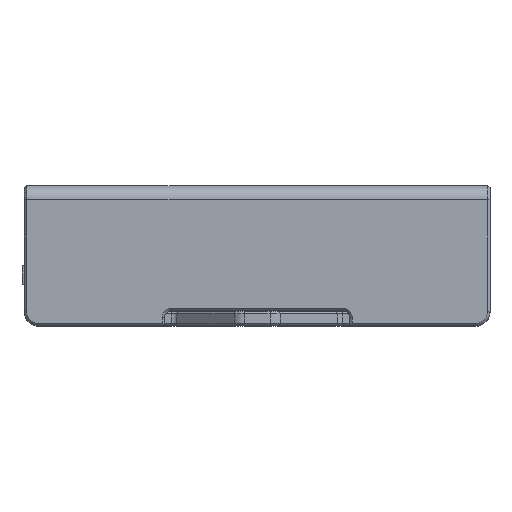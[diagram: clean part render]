
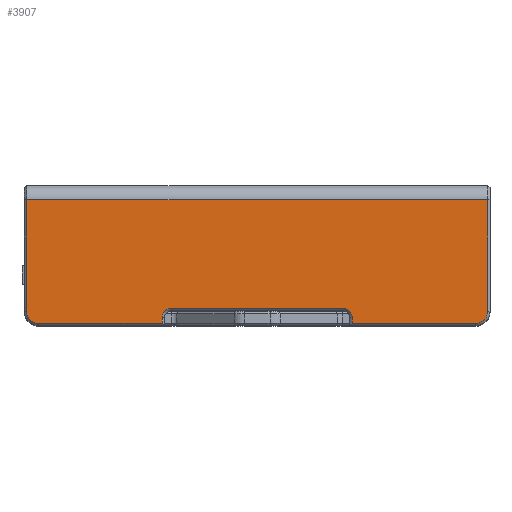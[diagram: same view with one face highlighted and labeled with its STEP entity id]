
A CAD part, top view. The second image highlights one B-rep face of the part: STEP entity #3907.
In plain terms, the highlighted planar face has unit normal (0, 0, 1) as drawn and (-1, 0, 0) by its records, which use the part's own axes.
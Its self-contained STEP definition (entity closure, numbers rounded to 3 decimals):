
#87 = CARTESIAN_POINT ( 'NONE',  ( -3.3, -5.3, -67.507 ) ) ;
#124 = CARTESIAN_POINT ( 'NONE',  ( -3.3, -7., -0.5 ) ) ;
#281 = ORIENTED_EDGE ( 'NONE', *, *, #10411, .T. ) ;
#757 = VERTEX_POINT ( 'NONE', #3693 ) ;
#1070 = AXIS2_PLACEMENT_3D ( 'NONE', #5021, #12186, #6031 ) ;
#1116 = DIRECTION ( 'NONE',  ( 0., 1., 0. ) ) ;
#1153 = DIRECTION ( 'NONE',  ( 0., 1., 0. ) ) ;
#1250 = EDGE_CURVE ( 'NONE', #2562, #5610, #4694, .T. ) ;
#1328 = VECTOR ( 'NONE', #1153, 1000. ) ;
#1412 = VERTEX_POINT ( 'NONE', #8043 ) ;
#1463 = VECTOR ( 'NONE', #11331, 1000. ) ;
#1649 = CARTESIAN_POINT ( 'NONE',  ( -3.3, -6.5, -29.233 ) ) ;
#1870 = CARTESIAN_POINT ( 'NONE',  ( -3.3, -6.5, -3. ) ) ;
#2078 = ORIENTED_EDGE ( 'NONE', *, *, #2645, .T. ) ;
#2094 = VECTOR ( 'NONE', #4319, 1000. ) ;
#2315 = LINE ( 'NONE', #7274, #7457 ) ;
#2562 = VERTEX_POINT ( 'NONE', #3669 ) ;
#2573 = EDGE_CURVE ( 'NONE', #757, #2619, #7452, .T. ) ;
#2619 = VERTEX_POINT ( 'NONE', #10935 ) ;
#2645 = EDGE_CURVE ( 'NONE', #11941, #1412, #3725, .T. ) ;
#2685 = EDGE_LOOP ( 'NONE', ( #8990, #9131, #7726, #11854, #7965, #4655, #2078, #4061, #6864, #3308, #281, #12550 ) ) ;
#2712 = CIRCLE ( 'NONE', #1070, 2.5 ) ;
#2736 = CARTESIAN_POINT ( 'NONE',  ( -3.3, 19.7, -180.775 ) ) ;
#2833 = CARTESIAN_POINT ( 'NONE',  ( -3.3, -5.3, -69.507 ) ) ;
#3302 = CARTESIAN_POINT ( 'NONE',  ( -3.3, -3.3, -180.775 ) ) ;
#3308 = ORIENTED_EDGE ( 'NONE', *, *, #3655, .T. ) ;
#3480 = VERTEX_POINT ( 'NONE', #11021 ) ;
#3534 = VECTOR ( 'NONE', #12220, 1000. ) ;
#3612 = CARTESIAN_POINT ( 'NONE',  ( -3.3, -7., -180.775 ) ) ;
#3617 = CIRCLE ( 'NONE', #9857, 2. ) ;
#3655 = EDGE_CURVE ( 'NONE', #5610, #10238, #12355, .T. ) ;
#3669 = CARTESIAN_POINT ( 'NONE',  ( -3.3, -6.5, -95.74 ) ) ;
#3693 = CARTESIAN_POINT ( 'NONE',  ( -3.3, -3.3, -31.233 ) ) ;
#3725 = LINE ( 'NONE', #11947, #9210 ) ;
#3733 = CARTESIAN_POINT ( 'NONE',  ( -3.3, -4., -95.74 ) ) ;
#3845 = CARTESIAN_POINT ( 'NONE',  ( -3.3, -4., -0.5 ) ) ;
#3907 = ADVANCED_FACE ( 'NONE', ( #6728 ), #11786, .F. ) ;
#4027 = CARTESIAN_POINT ( 'NONE',  ( -3.3, -6.5, -180.775 ) ) ;
#4060 = CARTESIAN_POINT ( 'NONE',  ( -3.3, 19.7, -0.5 ) ) ;
#4061 = ORIENTED_EDGE ( 'NONE', *, *, #12417, .T. ) ;
#4133 = EDGE_CURVE ( 'NONE', #8298, #6690, #6561, .T. ) ;
#4285 = CARTESIAN_POINT ( 'NONE',  ( -3.3, -6.5, -180.775 ) ) ;
#4319 = DIRECTION ( 'NONE',  ( 0., 0., 1. ) ) ;
#4501 = DIRECTION ( 'NONE',  ( 0., 0., 1. ) ) ;
#4655 = ORIENTED_EDGE ( 'NONE', *, *, #5294, .T. ) ;
#4694 = LINE ( 'NONE', #4285, #7124 ) ;
#4758 = DIRECTION ( 'NONE',  ( 0., 1., 0. ) ) ;
#4801 = LINE ( 'NONE', #3302, #2094 ) ;
#4911 = CARTESIAN_POINT ( 'NONE',  ( -3.3, 19.7, -98.24 ) ) ;
#5021 = CARTESIAN_POINT ( 'NONE',  ( -3.3, -4., -3. ) ) ;
#5294 = EDGE_CURVE ( 'NONE', #12628, #11941, #10658, .T. ) ;
#5370 = VERTEX_POINT ( 'NONE', #3845 ) ;
#5562 = EDGE_CURVE ( 'NONE', #2619, #8298, #2315, .T. ) ;
#5610 = VERTEX_POINT ( 'NONE', #10404 ) ;
#5633 = AXIS2_PLACEMENT_3D ( 'NONE', #3612, #12817, #6695 ) ;
#5753 = DIRECTION ( 'NONE',  ( 1., 0., 0. ) ) ;
#5784 = AXIS2_PLACEMENT_3D ( 'NONE', #11901, #5753, #12923 ) ;
#5814 = DIRECTION ( 'NONE',  ( 0., -1., 0. ) ) ;
#6031 = DIRECTION ( 'NONE',  ( 0., 1., 0. ) ) ;
#6055 = EDGE_CURVE ( 'NONE', #5370, #12628, #9522, .T. ) ;
#6561 = LINE ( 'NONE', #4027, #3534 ) ;
#6690 = VERTEX_POINT ( 'NONE', #1870 ) ;
#6695 = DIRECTION ( 'NONE',  ( 0., 1., 0. ) ) ;
#6728 = FACE_OUTER_BOUND ( 'NONE', #2685, .T. ) ;
#6864 = ORIENTED_EDGE ( 'NONE', *, *, #1250, .T. ) ;
#6885 = CIRCLE ( 'NONE', #10987, 2.5 ) ;
#7124 = VECTOR ( 'NONE', #4501, 1000. ) ;
#7274 = CARTESIAN_POINT ( 'NONE',  ( -3.3, -7., -29.233 ) ) ;
#7275 = DIRECTION ( 'NONE',  ( 1., 0., 0. ) ) ;
#7452 = CIRCLE ( 'NONE', #5784, 2. ) ;
#7457 = VECTOR ( 'NONE', #9326, 1000. ) ;
#7575 = EDGE_CURVE ( 'NONE', #3480, #757, #4801, .T. ) ;
#7726 = ORIENTED_EDGE ( 'NONE', *, *, #4133, .T. ) ;
#7965 = ORIENTED_EDGE ( 'NONE', *, *, #6055, .T. ) ;
#8043 = CARTESIAN_POINT ( 'NONE',  ( -3.3, -4., -98.24 ) ) ;
#8298 = VERTEX_POINT ( 'NONE', #1649 ) ;
#8876 = DIRECTION ( 'NONE',  ( 0., 0., -1. ) ) ;
#8899 = EDGE_CURVE ( 'NONE', #6690, #5370, #2712, .T. ) ;
#8990 = ORIENTED_EDGE ( 'NONE', *, *, #2573, .T. ) ;
#9131 = ORIENTED_EDGE ( 'NONE', *, *, #5562, .T. ) ;
#9210 = VECTOR ( 'NONE', #5814, 1000. ) ;
#9326 = DIRECTION ( 'NONE',  ( 0., -1., 0. ) ) ;
#9522 = LINE ( 'NONE', #124, #1328 ) ;
#9857 = AXIS2_PLACEMENT_3D ( 'NONE', #87, #7275, #1116 ) ;
#10238 = VERTEX_POINT ( 'NONE', #2833 ) ;
#10324 = CARTESIAN_POINT ( 'NONE',  ( -3.3, -7., -69.507 ) ) ;
#10404 = CARTESIAN_POINT ( 'NONE',  ( -3.3, -6.5, -69.507 ) ) ;
#10411 = EDGE_CURVE ( 'NONE', #10238, #3480, #3617, .T. ) ;
#10658 = LINE ( 'NONE', #2736, #10972 ) ;
#10910 = DIRECTION ( 'NONE',  ( -1., 0., 0. ) ) ;
#10935 = CARTESIAN_POINT ( 'NONE',  ( -3.3, -5.3, -29.233 ) ) ;
#10972 = VECTOR ( 'NONE', #8876, 1000. ) ;
#10987 = AXIS2_PLACEMENT_3D ( 'NONE', #3733, #10910, #4758 ) ;
#11021 = CARTESIAN_POINT ( 'NONE',  ( -3.3, -3.3, -67.507 ) ) ;
#11331 = DIRECTION ( 'NONE',  ( 0., 1., 0. ) ) ;
#11786 = PLANE ( 'NONE',  #5633 ) ;
#11854 = ORIENTED_EDGE ( 'NONE', *, *, #8899, .T. ) ;
#11901 = CARTESIAN_POINT ( 'NONE',  ( -3.3, -5.3, -31.233 ) ) ;
#11941 = VERTEX_POINT ( 'NONE', #4911 ) ;
#11947 = CARTESIAN_POINT ( 'NONE',  ( -3.3, -4., -98.24 ) ) ;
#12186 = DIRECTION ( 'NONE',  ( -1., 0., 0. ) ) ;
#12220 = DIRECTION ( 'NONE',  ( 0., 0., 1. ) ) ;
#12355 = LINE ( 'NONE', #10324, #1463 ) ;
#12417 = EDGE_CURVE ( 'NONE', #1412, #2562, #6885, .T. ) ;
#12550 = ORIENTED_EDGE ( 'NONE', *, *, #7575, .T. ) ;
#12628 = VERTEX_POINT ( 'NONE', #4060 ) ;
#12817 = DIRECTION ( 'NONE',  ( 1., 0., 0. ) ) ;
#12923 = DIRECTION ( 'NONE',  ( 0., 1., 0. ) ) ;
